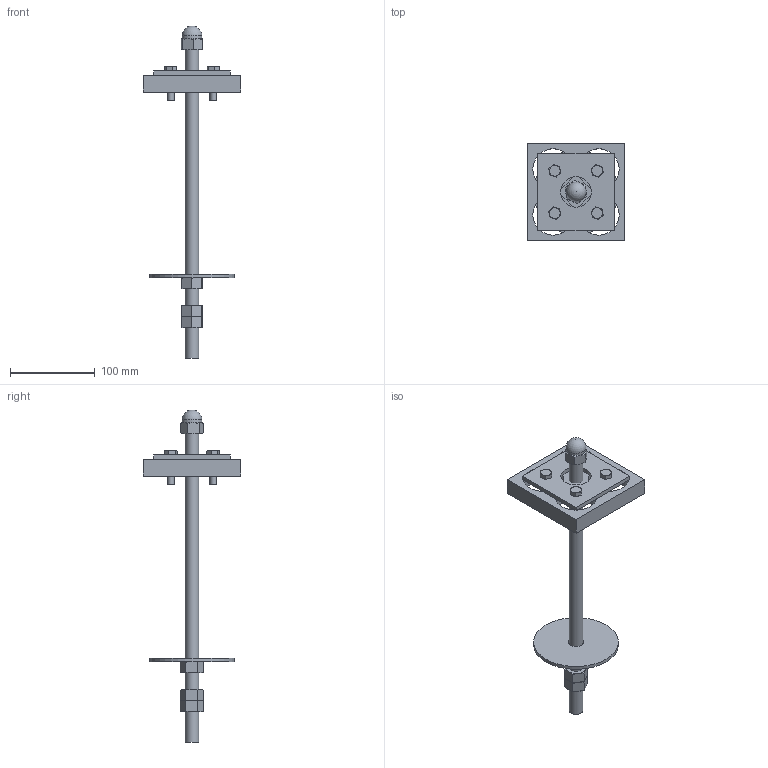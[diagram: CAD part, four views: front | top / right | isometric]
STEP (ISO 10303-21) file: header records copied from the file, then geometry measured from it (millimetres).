
FILE_DESCRIPTION(/* description */ (''),/* implementation_level */ '2;1');
FILE_NAME(/* name */ '2020TOMO-TELAIO.Piedino.A01.stp',/* time_stamp */ '2022-05-16T13:04:15+02:00',/* author */ (''),/* organization */ (''),/* preprocessor_version */ 'ST-DEVELOPER v18.102',/* originating_system */ 'SIEMENS PLM Software NX 2000',/* authorisation */ '');
FILE_SCHEMA (('AUTOMOTIVE_DESIGN { 1 0 10303 214 3 1 1 1 }'));
Length unit declared in the file: millimetre
Products named in the file (1): turc3144724Fyy1f
Bounding box: 115 x 115 x 392 mm (x, y, z)
Volume: 288944.8 mm3; surface area: 102923.1 mm2
Topology: 12 solids, 12 shells, 136 faces, 323 edges, 218 vertices
Faces by surface type: plane 87, cone 26, cylinder 22, sphere 1
Full cylindrical faces by diameter (mm): 7.76 x4, 8.5 x4, 14 x2, 14.376 x3, 16 x1, 18 x1, 23.5 x1, 36 x1, 48 x4, 100 x1
Entity records: 3893 total; most frequent: CARTESIAN_POINT 916, DIRECTION 550, ORIENTED_EDGE 492, EDGE_CURVE 246, AXIS2_PLACEMENT_3D 227, EDGE_LOOP 214, VERTEX_POINT 185, FACE_BOUND 142
